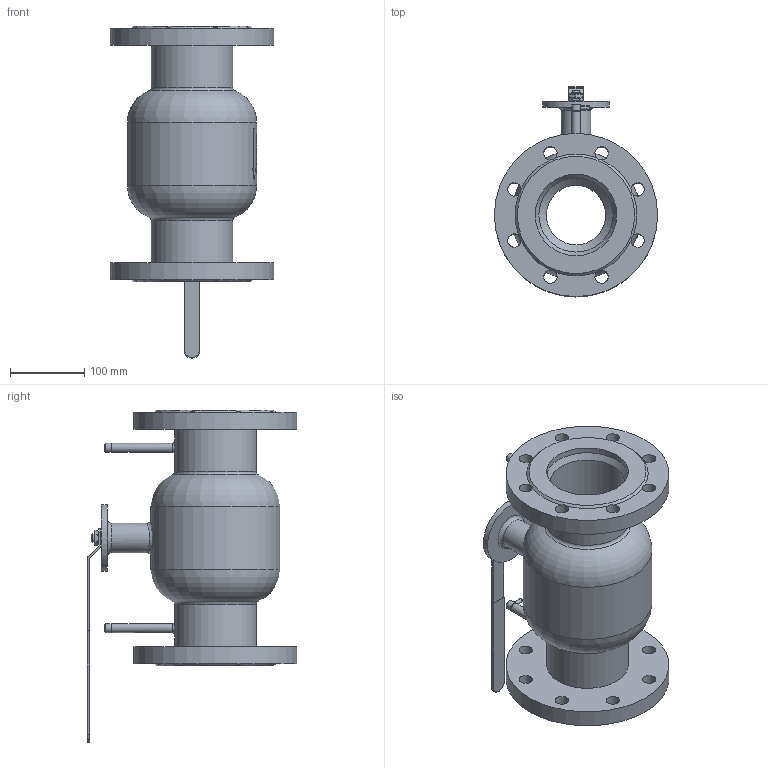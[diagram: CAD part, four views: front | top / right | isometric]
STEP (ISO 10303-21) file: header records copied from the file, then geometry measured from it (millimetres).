
FILE_DESCRIPTION(('STEP AP214'), '1');
FILE_NAME('BVR3232P-SP-F-H Êðàí øàðîâîé ðåãóëèðóþùèé DN.ru Äó100 Ðó16', '', ('UNSPECIFIED'), ('UNSPECIFIED'), 'C3D Converter', 'C3D Toolkit', '');
FILE_SCHEMA(('AUTOMOTIVE_DESIGN { 1 0 10303 214 3 1 1}'));
Length unit declared in the file: millimetre
Products named in the file (1): BVR3232P-SP-F-H
Bounding box: 220 x 283 x 447.5 mm (x, y, z)
Volume: 4270063 mm3; surface area: 453703.2 mm2
Topology: 1 solids, 1 shells, 712 faces, 1871 edges, 1239 vertices
Faces by surface type: plane 331, bspline 179, cylinder 98, extrusion 82, cone 13, torus 9
Full cylindrical faces by diameter (mm): 2.5 x2, 5 x2, 12 x6, 18 x16, 40 x1, 80 x1, 86 x1, 90 x1, 100 x2, 110 x4, 174 x1, 220 x2
Entity records: 80270 total; most frequent: CARTESIAN_POINT 63316, ORIENTED_EDGE 3620, DIRECTION 2400, EDGE_CURVE 1810, VERTEX_POINT 1239, VECTOR 910, EDGE_LOOP 885, LINE 828
